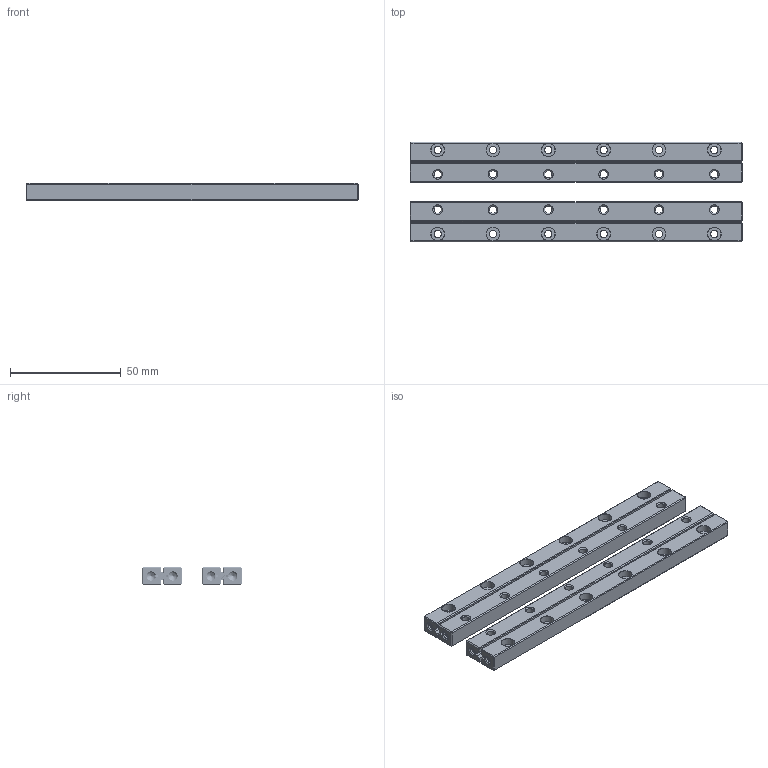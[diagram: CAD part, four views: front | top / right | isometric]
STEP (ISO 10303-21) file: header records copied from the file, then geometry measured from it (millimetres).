
FILE_DESCRIPTION(/* description */ (''),/* implementation_level */ '2;1');
FILE_NAME(/* name */ 'Set RSDE-150x28KRE-ACC.stp',/* time_stamp */ '2018-12-19T13:02:27+01:00',/* author */ (''),/* organization */ (''),/* preprocessor_version */ 'ST-DEVELOPER v16.7',/* originating_system */ 'SIEMENS PLM Software NX 12.0',/* authorisation */ '');
FILE_SCHEMA (('AUTOMOTIVE_DESIGN { 1 0 10303 214 3 1 1 1 }'));
Products named in the file (1): rhn11EC67B6z1ve
Bounding box: 150 x 45 x 8 mm (x, y, z)
Volume: 36301.2 mm3; surface area: 31288.3 mm2
Topology: 72 solids, 72 shells, 3948 faces, 11322 edges, 7458 vertices
Faces by surface type: plane 1984, cylinder 1252, torus 560, cone 80, extrusion 72
Full cylindrical faces by diameter (mm): 0.45 x240, 1 x8, 2 x56, 2.6 x8, 3 x56, 3.2 x8, 3.3 x24, 6 x24
Entity records: 131248 total; most frequent: CARTESIAN_POINT 27977, DIRECTION 21454, ORIENTED_EDGE 20736, EDGE_CURVE 10368, AXIS2_PLACEMENT_3D 7649, VERTEX_POINT 7124, VECTOR 6156, LINE 6084
